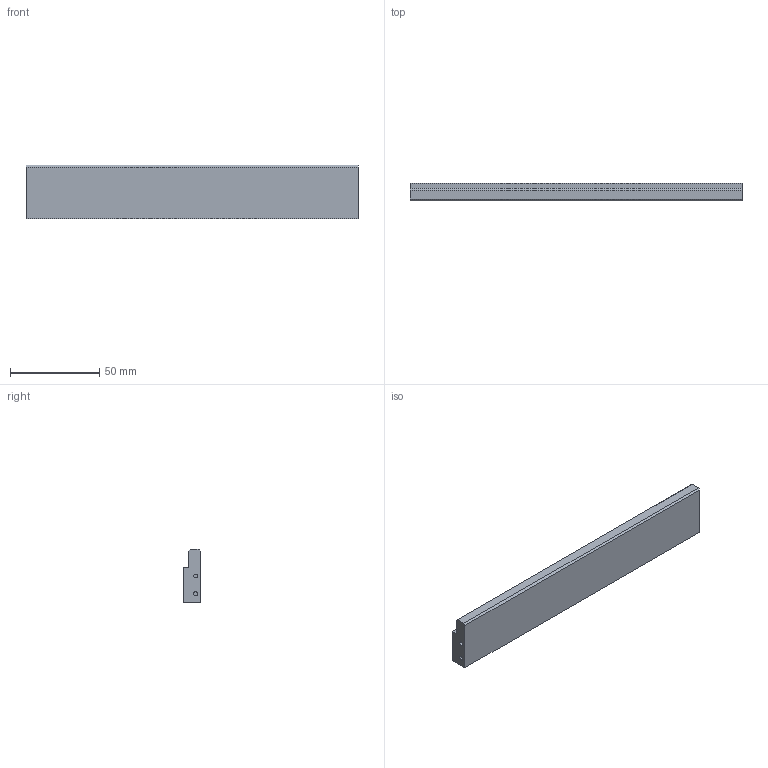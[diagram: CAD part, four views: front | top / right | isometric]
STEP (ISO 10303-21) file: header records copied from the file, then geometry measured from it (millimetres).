
FILE_DESCRIPTION(('CATIA V5 STEP Exchange'),'2;1');
FILE_NAME('C:\Users\hh\Desktop\AGZ102\AGZ102.01_V1.stp','2023-09-23T05:35:46+00:00',('none'),('none'),'CATIA Version 5 Release 21 GA (IN-10)','CATIA V5 STEP AP214','none');
FILE_SCHEMA(('AUTOMOTIVE_DESIGN { 1 0 10303 214 1 1 1 1 }'));
Length unit declared in the file: millimetre
Products named in the file (1): 边条
Bounding box: 186.5 x 10 x 30 mm (x, y, z)
Volume: 50016.4 mm3; surface area: 15516 mm2
Topology: 1 solids, 1 shells, 22 faces, 48 edges, 32 vertices
Faces by surface type: plane 14, cylinder 8
Entity records: 581 total; most frequent: CARTESIAN_POINT 96, ORIENTED_EDGE 96, DIRECTION 78, EDGE_CURVE 48, AXIS2_PLACEMENT_3D 32, VECTOR 32, LINE 32, VERTEX_POINT 32
